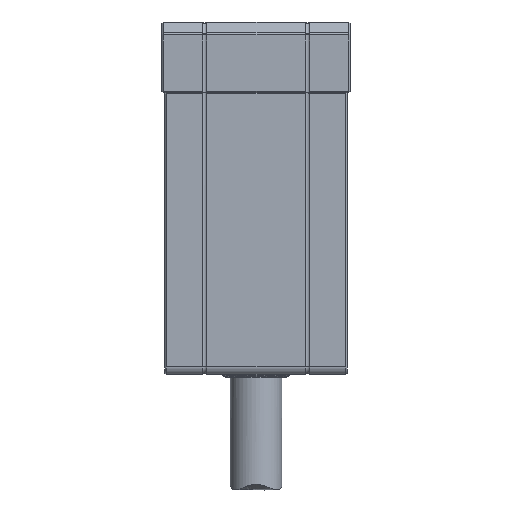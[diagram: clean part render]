
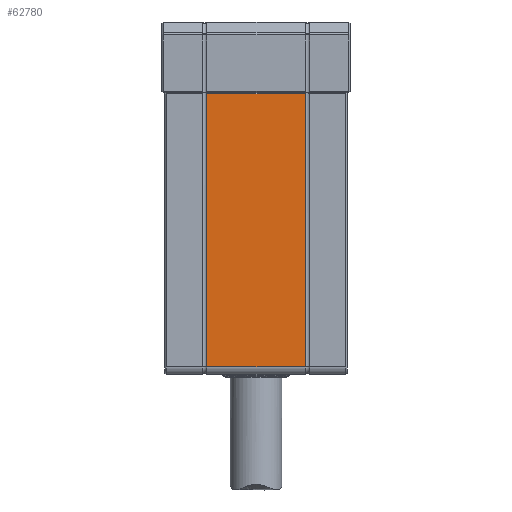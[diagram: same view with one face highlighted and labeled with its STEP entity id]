
A CAD part, left-side view. The second image highlights one B-rep face of the part: STEP entity #62780.
In plain terms, the highlighted planar face has unit normal (-1, 0, 0).
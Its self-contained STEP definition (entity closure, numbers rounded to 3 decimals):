
#35 = AXIS2_PLACEMENT_3D ( 'NONE', #67236, #7175, #1015 ) ;
#1015 = DIRECTION ( 'NONE',  ( 0., 1., 0. ) ) ;
#1117 = LINE ( 'NONE', #68177, #67128 ) ;
#2102 = EDGE_CURVE ( 'NONE', #73493, #43499, #52212, .T. ) ;
#4941 = CARTESIAN_POINT ( 'NONE',  ( -40., 8.36, -58.7 ) ) ;
#5523 = CARTESIAN_POINT ( 'NONE',  ( -40., 15.5, -12.2 ) ) ;
#7175 = DIRECTION ( 'NONE',  ( -1., 0., 0. ) ) ;
#12818 = EDGE_LOOP ( 'NONE', ( #57407, #14111, #36694, #33692 ) ) ;
#13100 = VECTOR ( 'NONE', #85708, 1000. ) ;
#14111 = ORIENTED_EDGE ( 'NONE', *, *, #55287, .T. ) ;
#31602 = DIRECTION ( 'NONE',  ( 0., 0., 1. ) ) ;
#33692 = ORIENTED_EDGE ( 'NONE', *, *, #45793, .T. ) ;
#33749 = CARTESIAN_POINT ( 'NONE',  ( -40., 8.36, -58.7 ) ) ;
#35030 = CARTESIAN_POINT ( 'NONE',  ( -40., -8.36, -12.2 ) ) ;
#36694 = ORIENTED_EDGE ( 'NONE', *, *, #2102, .F. ) ;
#41281 = FACE_OUTER_BOUND ( 'NONE', #12818, .T. ) ;
#43499 = VERTEX_POINT ( 'NONE', #60147 ) ;
#45793 = EDGE_CURVE ( 'NONE', #73493, #83609, #57724, .T. ) ;
#50035 = VECTOR ( 'NONE', #59008, 1000. ) ;
#52212 = LINE ( 'NONE', #4941, #70107 ) ;
#55287 = EDGE_CURVE ( 'NONE', #72530, #43499, #86117, .T. ) ;
#57407 = ORIENTED_EDGE ( 'NONE', *, *, #67581, .F. ) ;
#57724 = LINE ( 'NONE', #84486, #50035 ) ;
#59008 = DIRECTION ( 'NONE',  ( 0., -1., 0. ) ) ;
#60147 = CARTESIAN_POINT ( 'NONE',  ( -40., 8.36, -12.2 ) ) ;
#60724 = DIRECTION ( 'NONE',  ( 0., 0., -1. ) ) ;
#62780 = ADVANCED_FACE ( 'NONE', ( #41281 ), #74231, .T. ) ;
#67128 = VECTOR ( 'NONE', #60724, 1000. ) ;
#67236 = CARTESIAN_POINT ( 'NONE',  ( -40., 15.5, -60. ) ) ;
#67581 = EDGE_CURVE ( 'NONE', #72530, #83609, #1117, .T. ) ;
#68177 = CARTESIAN_POINT ( 'NONE',  ( -40., -8.36, -58.7 ) ) ;
#70053 = CARTESIAN_POINT ( 'NONE',  ( -40., -8.36, -58.7 ) ) ;
#70107 = VECTOR ( 'NONE', #31602, 1000. ) ;
#72530 = VERTEX_POINT ( 'NONE', #35030 ) ;
#73493 = VERTEX_POINT ( 'NONE', #33749 ) ;
#74231 = PLANE ( 'NONE',  #35 ) ;
#83609 = VERTEX_POINT ( 'NONE', #70053 ) ;
#84486 = CARTESIAN_POINT ( 'NONE',  ( -40., -15.5, -58.7 ) ) ;
#85708 = DIRECTION ( 'NONE',  ( 0., 1., 0. ) ) ;
#86117 = LINE ( 'NONE', #5523, #13100 ) ;
